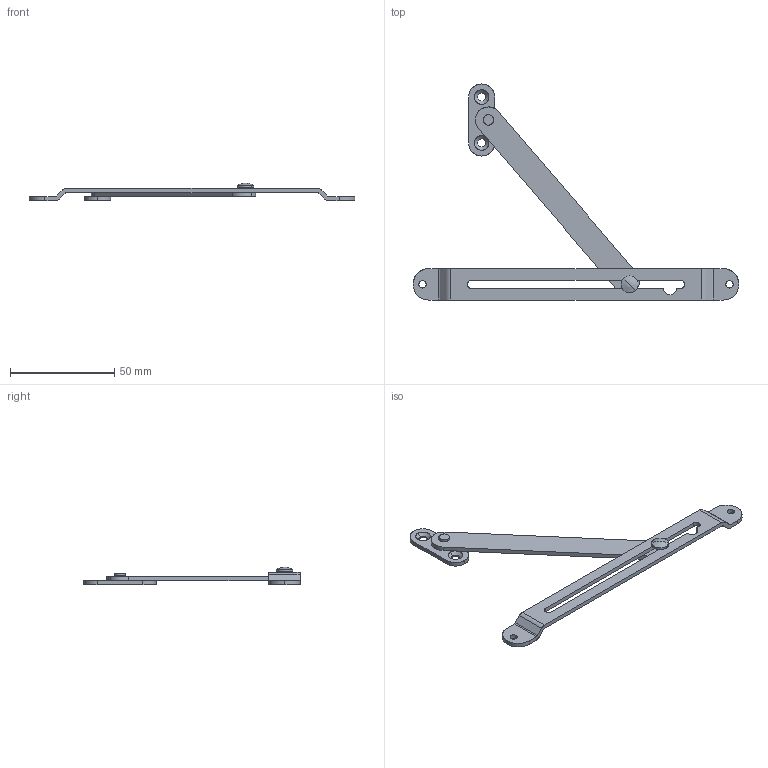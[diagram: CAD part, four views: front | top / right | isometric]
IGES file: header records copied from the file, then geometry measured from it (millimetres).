
Start section: SolidWorks IGES FILE using analytic representation for surfaces
Global section: file name: \\Ls-wvld1d\share\シブタニ\3D設計\ダンパー・ステー\EDS-52\EDS-52.IGS,41HSolidWorks; native system: 2003 by SolidWorks Corporation; preprocessor: Version 5.3; author: user; date: 130707.143334; units: millimetre
Bounding box: 156 x 103.46 x 8.5 mm (x, y, z)
Surface area: 9346.7 mm2 (no closed solid volume)
Topology: 0 solids, 0 shells, 75 faces, 1210 edges, 1210 vertices
Faces by surface type: revolution 49, bspline 26
